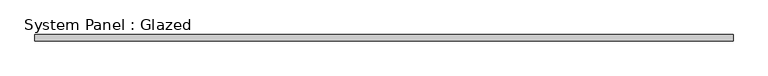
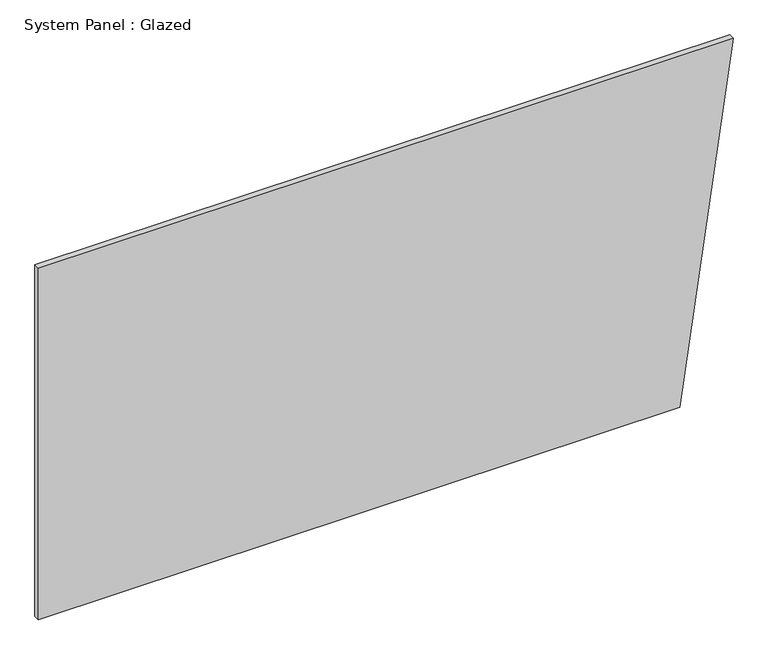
"""IFC4 building model written with IfcOpenShell, lengths in millimetres: plate geometry, System Panel : Glazed."""

import ifcopenshell
import ifcopenshell.guid

model = None  # the IFC model being written
_history = None  # IfcOwnerHistory: only IFC2X3 demands one
_inside = {}  # id of a spatial element -> (the spatial element, [elements in it])
_under = {}  # id of a project, library or spatial element -> (it, [spatial elements below it])
_declared = {}  # id of a project -> (the project, [libraries it declares])
_typed = {}  # id of a type object -> (the type object, [elements of that type])
_made_of = {}  # id of a material, layer set ... -> (it, [elements and type objects made of it])


def new_model(schema):
    """Start an empty IFC model of exactly this schema.

    Asked for "IFC4X3", IfcOpenShell would pick the latest addendum, in which some entities
    have other attributes; the version numbers below select the first issue.
    IFC2X3 requires an IfcOwnerHistory on every rooted entity: one is made here for all.
    """
    global model, _history
    if schema == "IFC4X3":
        model = ifcopenshell.file(schema_version=(4, 3, 0, 0))
    else:
        model = ifcopenshell.file(schema=schema)
    _inside.clear()
    _under.clear()
    _declared.clear()
    _typed.clear()
    _made_of.clear()
    _history = None
    if model.schema == "IFC2X3":
        org = make("IfcOrganization", Name="unknown")
        user = make(
            "IfcPersonAndOrganization",
            ThePerson=make("IfcPerson", FamilyName="unknown"),
            TheOrganization=org,
        )
        app = make(
            "IfcApplication",
            ApplicationDeveloper=org,
            Version="unknown",
            ApplicationFullName="unknown",
            ApplicationIdentifier="unknown",
        )
        _history = make(
            "IfcOwnerHistory",
            OwningUser=user,
            OwningApplication=app,
            ChangeAction="ADDED",
            CreationDate=0,
        )
    return model


def make(cls, **values):
    """One entity of the class cls with the attributes given. An attribute that is None is left unset."""
    return model.create_entity(
        cls, **{name: value for name, value in values.items() if value is not None}
    )


def rooted(cls, **values):
    """An entity with a GlobalId (a new one), such as an element, a storey or a relation."""
    return make(cls, GlobalId=ifcopenshell.guid.new(), OwnerHistory=_history, **values)


def si_unit(unit_type, name, prefix=None):
    """IfcSIUnit, for example si_unit("LENGTHUNIT", "METRE", prefix="MILLI")."""
    return make("IfcSIUnit", UnitType=unit_type, Prefix=prefix, Name=name)


def assignment(units):
    """IfcUnitAssignment: the units of a project."""
    return None if units is None else make("IfcUnitAssignment", Units=units)


def point(xyz):
    """IfcCartesianPoint."""
    return None if xyz is None else make("IfcCartesianPoint", Coordinates=xyz)


def direction(xyz):
    """IfcDirection."""
    return None if xyz is None else make("IfcDirection", DirectionRatios=xyz)


def frame(location, z_axis=None, x_axis=None):
    """IfcAxis2Placement3D, a coordinate frame: its origin and axes. An axis left out is left unset."""
    return make(
        "IfcAxis2Placement3D",
        Location=point(location),
        Axis=direction(z_axis),
        RefDirection=direction(x_axis),
    )


def origin():
    """The frame at (0, 0, 0) with its axes left unset."""
    return frame((0.0, 0.0, 0.0))


def place(relative_to, where):
    """IfcLocalPlacement: puts the frame where relative to a parent placement (None: the world)."""
    return make(
        "IfcLocalPlacement", PlacementRelTo=relative_to, RelativePlacement=where
    )


def context(
    kind, dimensions, precision=None, world=None, true_north=None, identifier=None
):
    """IfcGeometricRepresentationContext, for example the 3D "Model" context."""
    return make(
        "IfcGeometricRepresentationContext",
        ContextIdentifier=identifier,
        ContextType=kind,
        CoordinateSpaceDimension=dimensions,
        Precision=precision,
        WorldCoordinateSystem=world,
        TrueNorth=true_north,
    )


def project(units=None, contexts=None):
    """IfcProject with its units and contexts."""
    return rooted(
        "IfcProject",
        Name="project",
        RepresentationContexts=contexts,
        UnitsInContext=assignment(units),
    )


def spatial(cls, under=None, at=None, **own):
    """A site, building, storey or space (cls), placed at a placement, below another one or the project."""
    s = rooted(cls, ObjectPlacement=at, **own)
    if under is not None:
        _under.setdefault(under.id(), (under, []))[1].append(s)
    return s


def polyline(points):
    """IfcPolyline through the points."""
    return make("IfcPolyline", Points=[point(p) for p in points])


def outline(outer, holes=None, kind="AREA"):
    """IfcArbitraryClosedProfileDef: a profile drawn as a closed curve; with holes, ...WithVoids."""
    if holes is None:
        return make("IfcArbitraryClosedProfileDef", ProfileType=kind, OuterCurve=outer)
    return make(
        "IfcArbitraryProfileDefWithVoids",
        ProfileType=kind,
        OuterCurve=outer,
        InnerCurves=holes,
    )


def extrude(swept, where, along, depth):
    """IfcExtrudedAreaSolid: the profile swept, set in the frame where, extruded along a direction by depth."""
    return make(
        "IfcExtrudedAreaSolid",
        SweptArea=swept,
        Position=where,
        ExtrudedDirection=direction(along),
        Depth=depth,
    )


def shape(context_of_items, identifier, shape_type, items):
    """IfcShapeRepresentation: the items that make up one representation, for example the "Body"."""
    return make(
        "IfcShapeRepresentation",
        ContextOfItems=context_of_items,
        RepresentationIdentifier=identifier,
        RepresentationType=shape_type,
        Items=items,
    )


def source(mapping_origin, context_of_items, identifier, shape_type, items):
    """IfcRepresentationMap: a shape defined once, which mapped items show again and again."""
    return make(
        "IfcRepresentationMap",
        MappingOrigin=mapping_origin,
        MappedRepresentation=shape(context_of_items, identifier, shape_type, items),
    )


def transform(
    local_origin,
    x_axis=None,
    y_axis=None,
    z_axis=None,
    scale=None,
    scale2=None,
    scale3=None,
    uniform=True,
):
    """IfcCartesianTransformationOperator3D, or its non-uniform kind. x_axis, y_axis, z_axis: its Axis1, 2, 3."""
    if uniform:
        return make(
            "IfcCartesianTransformationOperator3D",
            Axis1=direction(x_axis),
            Axis2=direction(y_axis),
            LocalOrigin=point(local_origin),
            Scale=scale,
            Axis3=direction(z_axis),
        )
    return make(
        "IfcCartesianTransformationOperator3DnonUniform",
        Axis1=direction(x_axis),
        Axis2=direction(y_axis),
        LocalOrigin=point(local_origin),
        Scale=scale,
        Axis3=direction(z_axis),
        Scale2=scale2,
        Scale3=scale3,
    )


def mapped(mapping_source, mapping_target):
    """IfcMappedItem: shows the shape of a source again, moved by a transform."""
    return make(
        "IfcMappedItem", MappingSource=mapping_source, MappingTarget=mapping_target
    )


def made_of(thing, what):
    """Note that an element or type object is made of a material, layer set ...; save() writes the relation."""
    if what is not None:
        _made_of.setdefault(what.id(), (what, []))[1].append(thing)
    return thing


def element(
    cls,
    number,
    at=None,
    inside=None,
    cuts=None,
    type_object=None,
    material=None,
    context=None,
    identifier="Body",
    shape_type=None,
    held_by="IfcProductDefinitionShape",
    body=None,
    shapes=None,
    **own,
):
    """One element of the class cls, such as IfcWall. Its Tag is "e" and its number.

    at: its placement. inside: the storey or other place that contains it. cuts: it is an
    opening in that element (IfcRelVoidsElement). A single representation is given by context,
    identifier, shape_type and body (its items); several are given by shapes. held_by: the class
    of the entity that holds the representations. save() writes the other relations.
    """
    e = rooted(cls, Tag="e%d" % number, ObjectPlacement=at, **own)
    if body is not None:
        shapes = [shape(context, identifier, shape_type, body)]
    if shapes is not None:
        e.Representation = make(held_by, Representations=shapes)
    if inside is not None:
        _inside.setdefault(inside.id(), (inside, []))[1].append(e)
    if cuts is not None:
        rooted(
            "IfcRelVoidsElement", RelatingBuildingElement=cuts, RelatedOpeningElement=e
        )
    if type_object is not None:
        _typed.setdefault(type_object.id(), (type_object, []))[1].append(e)
    return made_of(e, material)


def aggregate(whole, parts):
    """IfcRelAggregates: a whole, such as a stair, and the parts it consists of."""
    return rooted("IfcRelAggregates", RelatingObject=whole, RelatedObjects=parts)


def save(model, path):
    """Write the relations noted so far, then the file.

    IfcRelAggregates (storeys below a building ...), IfcRelContainedInSpatialStructure (elements
    in a storey), IfcRelDefinesByType, IfcRelAssociatesMaterial and IfcRelDeclares: one each for
    every whole, place, type object, material and project.
    """
    for whole, parts in _under.values():
        aggregate(whole, parts)
    for where, things in _inside.values():
        rooted(
            "IfcRelContainedInSpatialStructure",
            RelatedElements=things,
            RelatingStructure=where,
        )
    for kind, things in _typed.values():
        rooted("IfcRelDefinesByType", RelatedObjects=things, RelatingType=kind)
    for what, things in _made_of.values():
        rooted("IfcRelAssociatesMaterial", RelatedObjects=things, RelatingMaterial=what)
    for by, libraries in _declared.values():
        rooted("IfcRelDeclares", RelatingContext=by, RelatedDefinitions=libraries)
    model.write(path)


def system_panel_glazed_4b52ce22(model_context):
    return source(origin(), model_context, "Body", "SweptSolid", [
        extrude(outline(polyline([(0.0, -1425.3237409), (0.0, 1206.0431654), (1524.0, 1425.3237409), (1524.0, -1425.3237409), (0.0, -1425.3237409)])), frame((0.0, 19.05, 0.0), z_axis=(0.0, 1.0, 0.0), x_axis=(0.0, 0.0, 1.0)), (0.0, 0.0, 1.0), 25.4),
    ])


if __name__ == "__main__":
    model = new_model("IFC4")
    model_context = context("Model", 3, world=origin())
    ifc_project = project(units=[si_unit("LENGTHUNIT", "METRE", prefix="MILLI")], contexts=[model_context])
    site = spatial("IfcSite", under=ifc_project)
    building = spatial("IfcBuilding", under=site)
    placement = place(None, origin())
    system_panel_glazed_shape = system_panel_glazed_4b52ce22(model_context)
    element("IfcPlate", 1, ObjectType="System Panel : Glazed", at=placement, inside=building, context=model_context, shape_type="MappedRepresentation", body=[
        mapped(system_panel_glazed_shape, transform((0.0, 0.0, 0.0), x_axis=(1.0, 0.0, 0.0), y_axis=(0.0, 1.0, 0.0), z_axis=(0.0, 0.0, 1.0))),
    ])
    save(model, "model.ifc")
